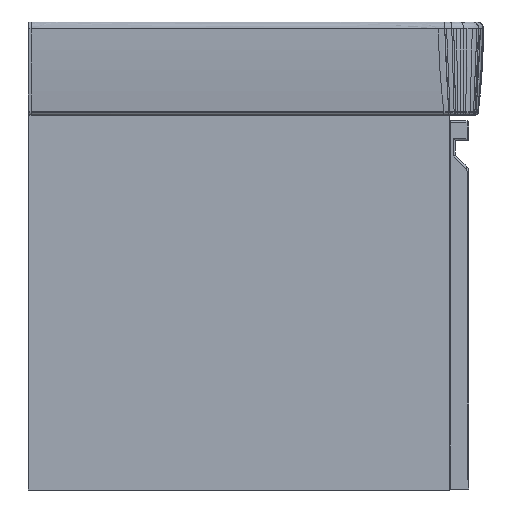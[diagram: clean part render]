
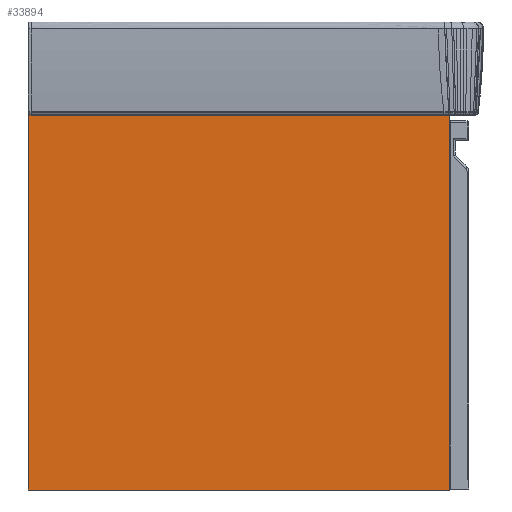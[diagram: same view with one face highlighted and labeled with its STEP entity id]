
A CAD part, left-side view. The second image highlights one B-rep face of the part: STEP entity #33894.
In plain terms, the highlighted planar face has unit normal (-1, 0, 0).
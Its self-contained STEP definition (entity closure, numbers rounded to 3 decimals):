
#7170=FACE_OUTER_BOUND('',#8661,.T.);
#8661=EDGE_LOOP('',(#30599,#30600,#30601,#30602));
#10116=LINE('',#260318,#11583);
#10117=LINE('',#260321,#11584);
#10118=LINE('',#260323,#11585);
#10119=LINE('',#260324,#11586);
#11583=VECTOR('',#44231,430.);
#11584=VECTOR('',#44234,387.);
#11585=VECTOR('',#44235,430.);
#11586=VECTOR('',#44236,387.);
#17236=VERTEX_POINT('',#260311);
#17239=VERTEX_POINT('',#260316);
#17240=VERTEX_POINT('',#260320);
#17241=VERTEX_POINT('',#260322);
#23292=EDGE_CURVE('',#17239,#17236,#10116,.T.);
#23293=EDGE_CURVE('',#17240,#17239,#10117,.T.);
#23294=EDGE_CURVE('',#17241,#17240,#10118,.T.);
#23295=EDGE_CURVE('',#17241,#17236,#10119,.T.);
#30599=ORIENTED_EDGE('',*,*,#23292,.F.);
#30600=ORIENTED_EDGE('',*,*,#23293,.F.);
#30601=ORIENTED_EDGE('',*,*,#23294,.F.);
#30602=ORIENTED_EDGE('',*,*,#23295,.T.);
#31114=PLANE('',#38288);
#33894=ADVANCED_FACE('',(#7170),#31114,.T.);
#38288=AXIS2_PLACEMENT_3D('',#260319,#44232,#44233);
#44231=DIRECTION('',(0.,-1.,0.));
#44232=DIRECTION('center_axis',(-1.,0.,0.));
#44233=DIRECTION('ref_axis',(0.,0.,1.));
#44234=DIRECTION('',(0.,0.,1.));
#44235=DIRECTION('',(0.,1.,0.));
#44236=DIRECTION('',(0.,0.,1.));
#260311=CARTESIAN_POINT('',(3756.937,-4446.049,-1478.291));
#260316=CARTESIAN_POINT('',(3756.937,-4016.049,-1478.291));
#260318=CARTESIAN_POINT('',(3756.937,-4016.049,-1478.291));
#260319=CARTESIAN_POINT('Origin',(3756.937,-4016.049,-1865.291));
#260320=CARTESIAN_POINT('',(3756.937,-4016.049,-1865.291));
#260321=CARTESIAN_POINT('',(3756.937,-4016.049,-1865.291));
#260322=CARTESIAN_POINT('',(3756.937,-4446.049,-1865.291));
#260323=CARTESIAN_POINT('',(3756.937,-4446.049,-1865.291));
#260324=CARTESIAN_POINT('',(3756.937,-4446.049,-1865.291));
